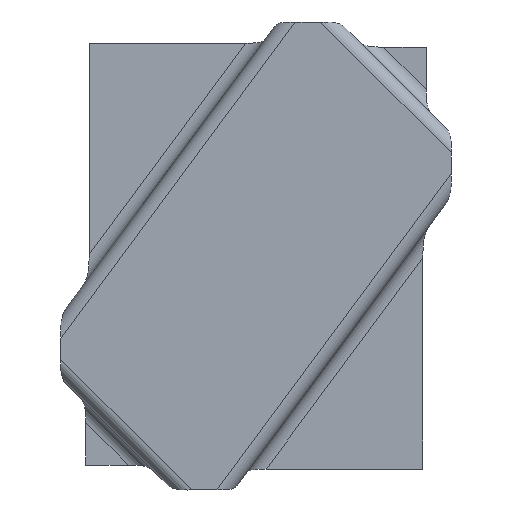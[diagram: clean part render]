
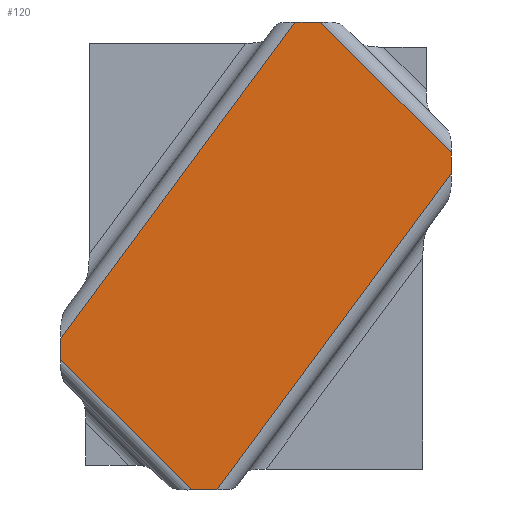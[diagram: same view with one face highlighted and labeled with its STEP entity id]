
A CAD part, top view. The second image highlights one B-rep face of the part: STEP entity #120.
In plain terms, the highlighted planar face has unit normal (0, 0, -1).
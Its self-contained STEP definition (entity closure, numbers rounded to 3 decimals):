
#53=CARTESIAN_POINT('Axis2P3D Location',(-51.784,38.364,64.947)) ;
#59=CARTESIAN_POINT('Control Point',(-51.784,77.646,64.947)) ;
#60=CARTESIAN_POINT('Control Point',(8.757,159.364,64.947)) ;
#61=CARTESIAN_POINT('Vertex',(-51.784,77.646,64.947)) ;
#63=CARTESIAN_POINT('Vertex',(8.757,159.364,64.947)) ;
#66=CARTESIAN_POINT('Line Origine',(-1.284,159.364,64.947)) ;
#70=CARTESIAN_POINT('Vertex',(15.39,159.364,64.947)) ;
#74=CARTESIAN_POINT('Control Point',(15.39,159.364,64.947)) ;
#75=CARTESIAN_POINT('Control Point',(49.216,125.538,64.947)) ;
#76=CARTESIAN_POINT('Vertex',(49.216,125.538,64.947)) ;
#79=CARTESIAN_POINT('Line Origine',(49.216,98.864,64.947)) ;
#83=CARTESIAN_POINT('Vertex',(49.216,120.142,64.947)) ;
#87=CARTESIAN_POINT('Control Point',(49.216,120.142,64.947)) ;
#88=CARTESIAN_POINT('Control Point',(-11.369,38.364,64.947)) ;
#89=CARTESIAN_POINT('Vertex',(-11.369,38.364,64.947)) ;
#92=CARTESIAN_POINT('Line Origine',(-1.284,38.364,64.947)) ;
#96=CARTESIAN_POINT('Vertex',(-17.958,38.364,64.947)) ;
#100=CARTESIAN_POINT('Control Point',(-51.784,72.19,64.947)) ;
#101=CARTESIAN_POINT('Control Point',(-17.958,38.364,64.947)) ;
#102=CARTESIAN_POINT('Vertex',(-51.784,72.19,64.947)) ;
#105=CARTESIAN_POINT('Line Origine',(-51.784,98.864,64.947)) ;
#54=DIRECTION('Axis2P3D Direction',(0.,0.,1.)) ;
#55=DIRECTION('Axis2P3D XDirection',(1.,0.,0.)) ;
#67=DIRECTION('Vector Direction',(1.,0.,0.)) ;
#80=DIRECTION('Vector Direction',(0.,1.,0.)) ;
#93=DIRECTION('Vector Direction',(1.,0.,0.)) ;
#106=DIRECTION('Vector Direction',(0.,1.,0.)) ;
#56=AXIS2_PLACEMENT_3D('Plane Axis2P3D',#53,#54,#55) ;
#111=ORIENTED_EDGE('',*,*,#65,.T.) ;
#112=ORIENTED_EDGE('',*,*,#72,.T.) ;
#113=ORIENTED_EDGE('',*,*,#78,.T.) ;
#114=ORIENTED_EDGE('',*,*,#85,.T.) ;
#115=ORIENTED_EDGE('',*,*,#91,.T.) ;
#116=ORIENTED_EDGE('',*,*,#98,.T.) ;
#117=ORIENTED_EDGE('',*,*,#104,.F.) ;
#118=ORIENTED_EDGE('',*,*,#109,.T.) ;
#68=VECTOR('Line Direction',#67,1.) ;
#81=VECTOR('Line Direction',#80,1.) ;
#94=VECTOR('Line Direction',#93,1.) ;
#107=VECTOR('Line Direction',#106,1.) ;
#120=ADVANCED_FACE('Offset.1',(#119),#57,.F.) ;
#58=B_SPLINE_CURVE_WITH_KNOTS('',1,(#59,#60),.UNSPECIFIED.,.F.,.U.,(2,2),(-50.851,50.851),.UNSPECIFIED.) ;
#73=B_SPLINE_CURVE_WITH_KNOTS('',1,(#74,#75),.UNSPECIFIED.,.F.,.U.,(2,2),(-23.919,23.919),.UNSPECIFIED.) ;
#86=B_SPLINE_CURVE_WITH_KNOTS('',1,(#87,#88),.UNSPECIFIED.,.F.,.U.,(2,2),(-50.887,50.887),.UNSPECIFIED.) ;
#99=B_SPLINE_CURVE_WITH_KNOTS('',1,(#100,#101),.UNSPECIFIED.,.F.,.U.,(2,2),(-23.919,23.919),.UNSPECIFIED.) ;
#65=EDGE_CURVE('',#62,#64,#58,.T.) ;
#72=EDGE_CURVE('',#64,#71,#69,.T.) ;
#78=EDGE_CURVE('',#71,#77,#73,.T.) ;
#85=EDGE_CURVE('',#77,#84,#82,.F.) ;
#91=EDGE_CURVE('',#84,#90,#86,.T.) ;
#98=EDGE_CURVE('',#90,#97,#95,.F.) ;
#104=EDGE_CURVE('',#103,#97,#99,.T.) ;
#109=EDGE_CURVE('',#103,#62,#108,.T.) ;
#110=EDGE_LOOP('',(#111,#112,#113,#114,#115,#116,#117,#118)) ;
#119=FACE_OUTER_BOUND('',#110,.T.) ;
#69=LINE('Line',#66,#68) ;
#82=LINE('Line',#79,#81) ;
#95=LINE('Line',#92,#94) ;
#108=LINE('Line',#105,#107) ;
#57=PLANE('',#56) ;
#62=VERTEX_POINT('',#61) ;
#64=VERTEX_POINT('',#63) ;
#71=VERTEX_POINT('',#70) ;
#77=VERTEX_POINT('',#76) ;
#84=VERTEX_POINT('',#83) ;
#90=VERTEX_POINT('',#89) ;
#97=VERTEX_POINT('',#96) ;
#103=VERTEX_POINT('',#102) ;
